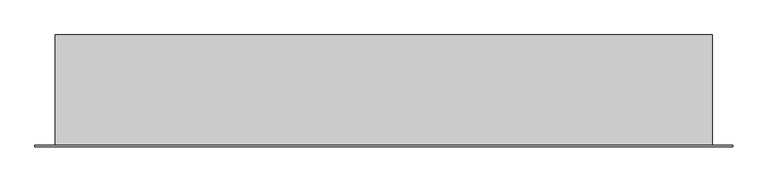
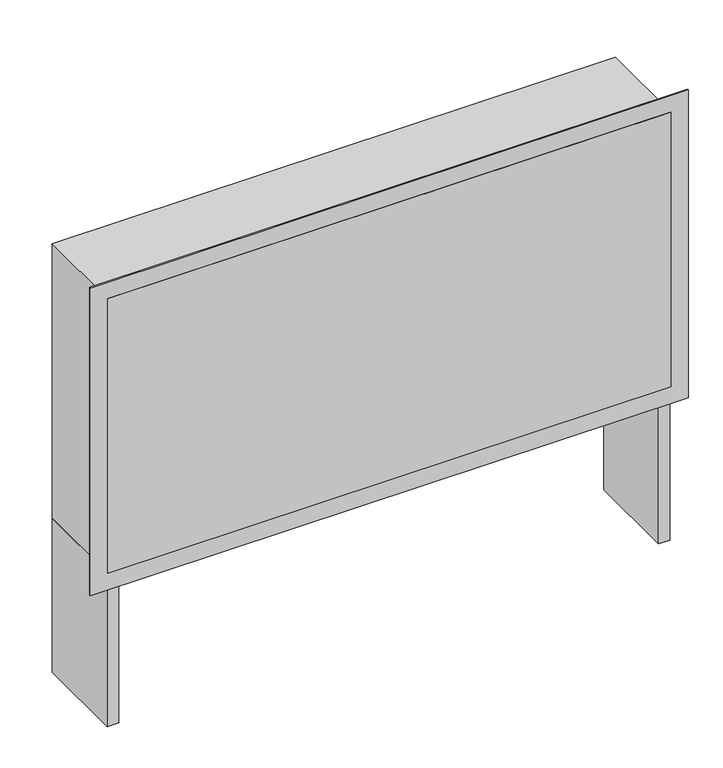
"""IFC4 building model written with IfcOpenShell, lengths in millimetres: valve geometry, PL CZ,HU Cabinet under plaster : FT-VK3 7-12 manifold loops."""

from ifc_helpers import new_model, si_unit, frame, origin, origin_with_axes, place, context, project, spatial, polyline, outline, extrude, source, transform, mapped, element, save


def valve_ed07def3(model_context):
    return source(origin(), model_context, "Body", "SweptSolid", [
        extrude(outline(polyline([(-465.0, 2.0), (-485.0, 2.0), (-485.0, 165.0), (-465.0, 165.0), (-465.0, 2.0)])), origin_with_axes(), (0.0, 0.0, 1.0), 280.0),
        extrude(outline(polyline([(485.0, 2.0), (465.0, 2.0), (465.0, 165.0), (485.0, 165.0), (485.0, 2.0)])), origin_with_axes(), (0.0, 0.0, 1.0), 280.0),
        extrude(outline(polyline([(485.0, 0.0), (-485.0, 0.0), (-485.0, 165.0), (485.0, 165.0), (485.0, 0.0)])), frame((0.0, 0.0, 280.0), z_axis=(0.0, 0.0, 1.0), x_axis=(1.0, 0.0, 0.0)), (0.0, 0.0, 1.0), 500.0),
        extrude(outline(polyline([(810.0, 515.0), (810.0, -515.0), (250.0, -515.0), (250.0, 515.0), (810.0, 515.0)]), holes=[polyline([(280.0, -485.0), (780.0, -485.0), (780.0, 485.0), (280.0, 485.0), (280.0, -485.0)])]), frame((0.0, 0.0, 0.0), z_axis=(0.0, 1.0, 0.0), x_axis=(0.0, 0.0, 1.0)), (0.0, 0.0, 1.0), 2.0),
    ])


if __name__ == "__main__":
    model = new_model("IFC4")
    model_context = context("Model", 3, world=origin())
    ifc_project = project(units=[si_unit("LENGTHUNIT", "METRE", prefix="MILLI")], contexts=[model_context])
    site = spatial("IfcSite", under=ifc_project)
    building = spatial("IfcBuilding", under=site)
    placement = place(None, origin())
    valve_shape = valve_ed07def3(model_context)
    element("IfcValve", 1, ObjectType="PL CZ,HU Cabinet under plaster : FT-VK3 7-12 manifold loops", at=placement, inside=building, context=model_context, shape_type="MappedRepresentation", body=[
        mapped(valve_shape, transform((0.0, 0.0, 0.0), x_axis=(1.0, 0.0, 0.0), y_axis=(0.0, 1.0, 0.0), z_axis=(0.0, 0.0, 1.0))),
    ])
    save(model, "model.ifc")
